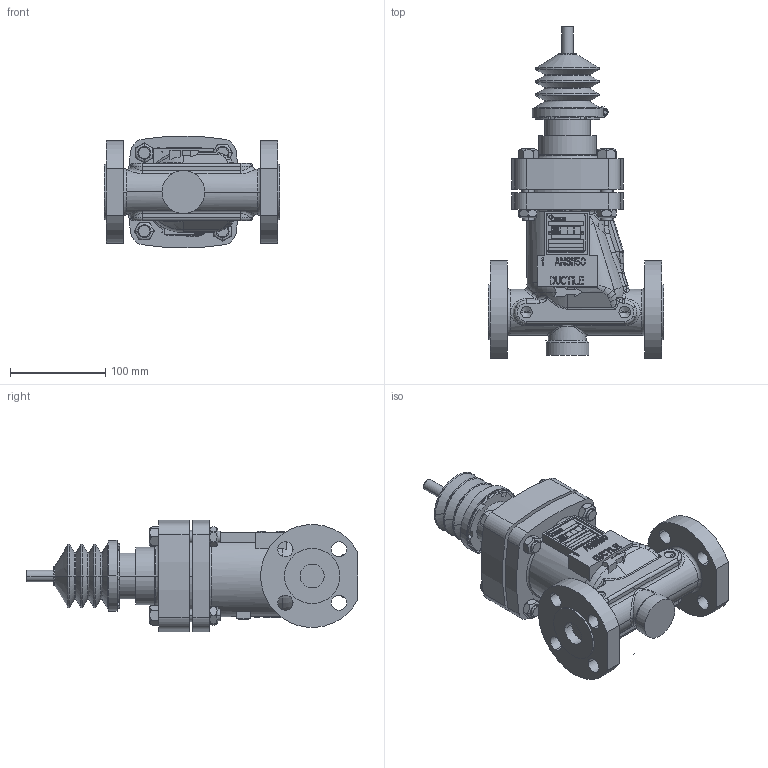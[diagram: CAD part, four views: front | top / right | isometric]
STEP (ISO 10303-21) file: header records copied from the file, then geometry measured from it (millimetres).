
FILE_DESCRIPTION((''),'2;1');
FILE_NAME('9560-00-5020_A_ASM','2014-04-02T',('SParmar1'),(''),'PRO/ENGINEER BY PARAMETRIC TECHNOLOGY CORPORATION, 2011040','PRO/ENGINEER BY PARAMETRIC TECHNOLOGY CORPORATION, 2011040','');
FILE_SCHEMA(('CONFIG_CONTROL_DESIGN'));
Products named in the file (6): 9567-12-2041; 9568-27-5105; M12_X_65; M12_X_HEX_NUT; 4188_11_1060; 9560-00-5020_A_ASM
Assembly tree (11 placements, depth 2):
  9560-00-5020_A_ASM
    9567-12-2041
    9568-27-5105
    M12_X_65  x4
    M12_X_HEX_NUT  x4
    4188_11_1060
Bounding box: 184 x 348 x 117.17 mm (x, y, z)
Volume: 2022867.9 mm3; surface area: 274840.7 mm2
Topology: 15 solids, 16 shells, 2816 faces, 7696 edges, 5036 vertices
Faces by surface type: plane 2341, cylinder 220, bspline 116, torus 66, cone 50, extrusion 17, sphere 6
Entity records: 90719 total; most frequent: CARTESIAN_POINT 21484, ORIENTED_EDGE 15016, DIRECTION 13064, EDGE_CURVE 7508, VECTOR 6604, LINE 6587, VERTEX_POINT 4922, AXIS2_PLACEMENT_3D 3230
